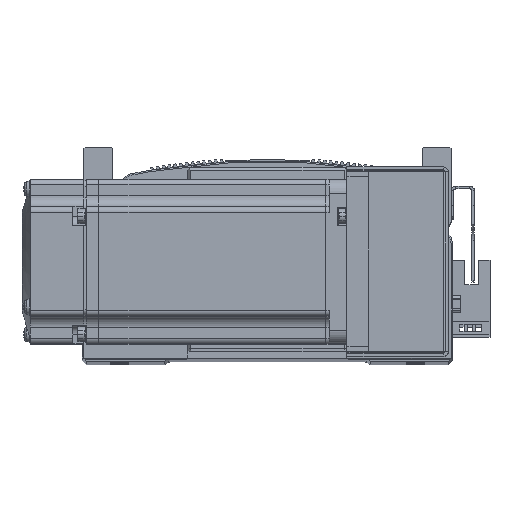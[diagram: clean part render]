
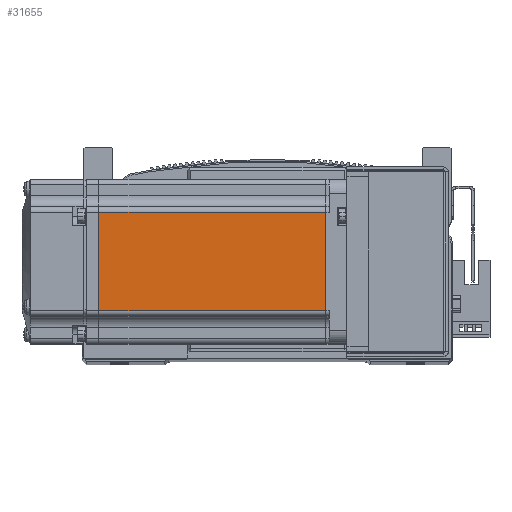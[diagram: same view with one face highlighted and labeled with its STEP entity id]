
A CAD part, top view. The second image highlights one B-rep face of the part: STEP entity #31655.
In plain terms, the highlighted planar face has unit normal (0, 0, 1) as drawn and (0, -1, 0) by its records, which use the part's own axes.
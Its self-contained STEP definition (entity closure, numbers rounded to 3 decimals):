
#233 = EDGE_LOOP ( 'NONE', ( #54010, #53968, #53911, #53943 ) ) ;
#3774 = CARTESIAN_POINT ( 'NONE',  ( -7.75, -30., -18. ) ) ;
#3775 = CARTESIAN_POINT ( 'NONE',  ( -90.45, -30., 18. ) ) ;
#3778 = CARTESIAN_POINT ( 'NONE',  ( -7.75, -30., 18. ) ) ;
#3781 = CARTESIAN_POINT ( 'NONE',  ( -90.45, -30., -18. ) ) ;
#20981 = EDGE_CURVE ( 'NONE', #54354, #54330, #46932, .T. ) ;
#21020 = EDGE_CURVE ( 'NONE', #54315, #54365, #47021, .T. ) ;
#21078 = EDGE_CURVE ( 'NONE', #54354, #54315, #47057, .T. ) ;
#21085 = EDGE_CURVE ( 'NONE', #54330, #54365, #45872, .T. ) ;
#29198 = FACE_OUTER_BOUND ( 'NONE', #233, .T. ) ;
#31655 = ADVANCED_FACE ( 'NONE', ( #29198 ), #79014, .T. ) ;
#41598 = CARTESIAN_POINT ( 'NONE',  ( -90.45, -30., 0. ) ) ;
#41622 = DIRECTION ( 'NONE',  ( 0., 0., -1. ) ) ;
#41940 = CARTESIAN_POINT ( 'NONE',  ( -6.5, -30., -18. ) ) ;
#41965 = DIRECTION ( 'NONE',  ( -1., 0., 0. ) ) ;
#41973 = DIRECTION ( 'NONE',  ( -1., 0., 0. ) ) ;
#42001 = CARTESIAN_POINT ( 'NONE',  ( -6.5, -30., 18. ) ) ;
#45804 = CARTESIAN_POINT ( 'NONE',  ( -7.75, -30., 0. ) ) ;
#45808 = DIRECTION ( 'NONE',  ( 0., 0., -1. ) ) ;
#45848 = VECTOR ( 'NONE', #41965, 1000. ) ;
#45872 = LINE ( 'NONE', #41940, #45848 ) ;
#46899 = VECTOR ( 'NONE', #45808, 1000. ) ;
#46932 = LINE ( 'NONE', #45804, #46899 ) ;
#47003 = VECTOR ( 'NONE', #41622, 1000. ) ;
#47021 = LINE ( 'NONE', #41598, #47003 ) ;
#47045 = VECTOR ( 'NONE', #41973, 1000. ) ;
#47057 = LINE ( 'NONE', #42001, #47045 ) ;
#53911 = ORIENTED_EDGE ( 'NONE', *, *, #21020, .T. ) ;
#53943 = ORIENTED_EDGE ( 'NONE', *, *, #21085, .F. ) ;
#53968 = ORIENTED_EDGE ( 'NONE', *, *, #21078, .T. ) ;
#54010 = ORIENTED_EDGE ( 'NONE', *, *, #20981, .F. ) ;
#54315 = VERTEX_POINT ( 'NONE', #3775 ) ;
#54330 = VERTEX_POINT ( 'NONE', #3774 ) ;
#54354 = VERTEX_POINT ( 'NONE', #3778 ) ;
#54365 = VERTEX_POINT ( 'NONE', #3781 ) ;
#73333 = AXIS2_PLACEMENT_3D ( 'NONE', #79016, #79044, #79032 ) ;
#79014 = PLANE ( 'NONE',  #73333 ) ;
#79016 = CARTESIAN_POINT ( 'NONE',  ( -6.5, -30., -25. ) ) ;
#79032 = DIRECTION ( 'NONE',  ( 0., 0., -1. ) ) ;
#79044 = DIRECTION ( 'NONE',  ( 0., -1., 0. ) ) ;
